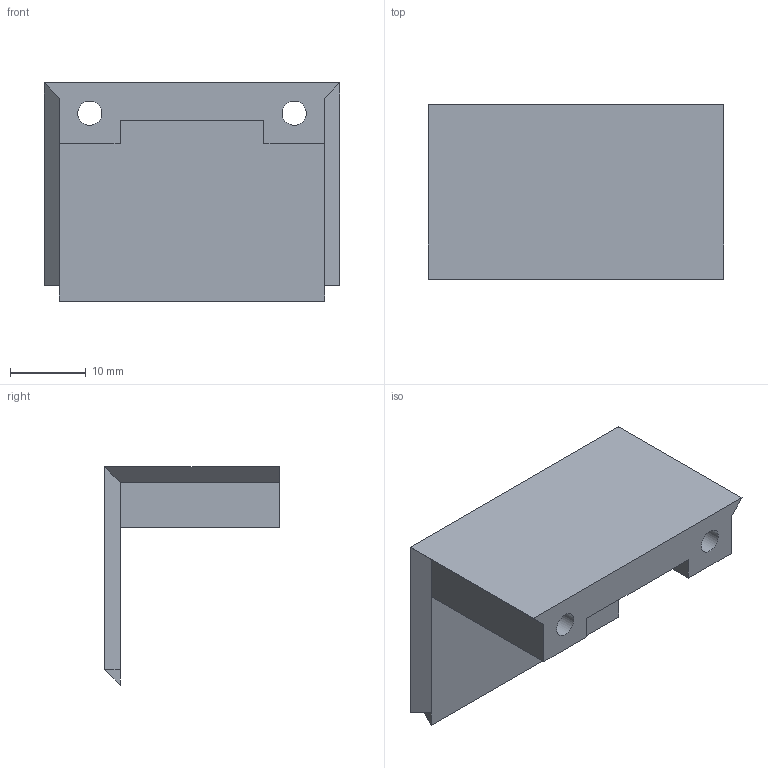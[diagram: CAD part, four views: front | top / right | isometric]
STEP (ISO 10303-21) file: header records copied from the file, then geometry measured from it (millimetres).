
FILE_DESCRIPTION(/* description */ (''),/* implementation_level */ '2;1');
FILE_NAME(/* name */ '6-05-1 ESP cover.step',/* time_stamp */ '2025-05-10T22:36:55+02:00',/* author */ (''),/* organization */ (''),/* preprocessor_version */ 'ST-DEVELOPER v20.1',/* originating_system */ 'Autodesk Translation Framework v14.4.0.0',/* authorisation */ '');
FILE_SCHEMA (('AUTOMOTIVE_DESIGN { 1 0 10303 214 3 1 1 }'));
Length unit declared in the file: millimetre
Products named in the file (1): 6-05-1 ESP cover
Bounding box: 39 x 23 x 28.8 mm (x, y, z)
Volume: 5419.5 mm3; surface area: 5137.6 mm2
Topology: 1 solids, 1 shells, 28 faces, 64 edges, 40 vertices
Faces by surface type: plane 24, cylinder 4
Full cylindrical faces by diameter (mm): 3.2 x2, 6 x2
Entity records: 820 total; most frequent: CARTESIAN_POINT 133, DIRECTION 130, ORIENTED_EDGE 128, EDGE_CURVE 64, LINE 56, VECTOR 56, VERTEX_POINT 40, AXIS2_PLACEMENT_3D 37
